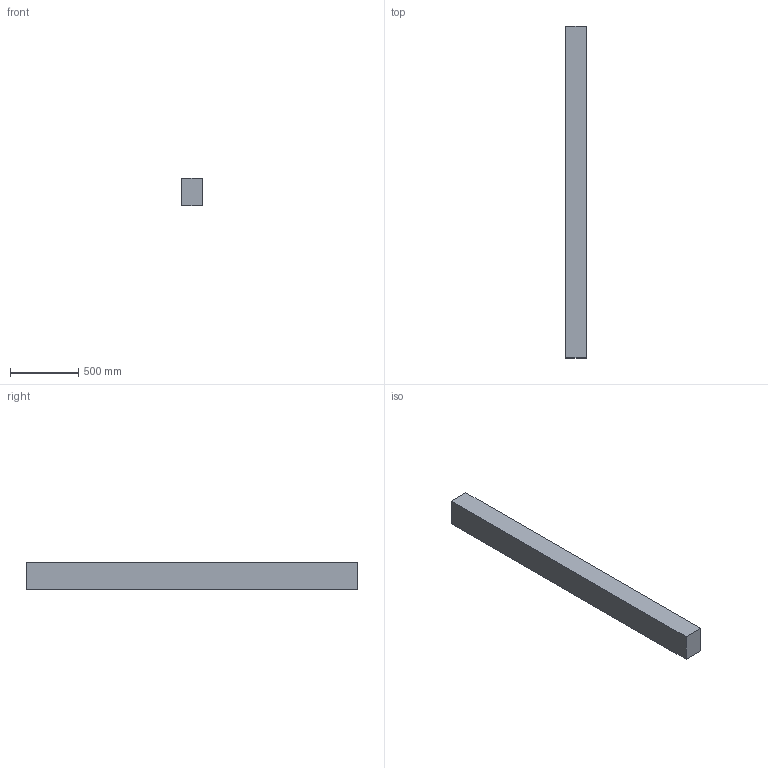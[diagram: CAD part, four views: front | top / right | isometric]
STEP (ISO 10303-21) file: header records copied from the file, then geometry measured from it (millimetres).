
FILE_DESCRIPTION(/* description */ (''),/* implementation_level */ '2;1');
FILE_NAME(/* name */ '6x8x96',/* time_stamp */ '2024-09-20T11:47:24-05:00',/* author */ (''),/* organization */ (''),/* preprocessor_version */ 'ST-DEVELOPER v19.2',/* originating_system */ 'Rhino 8.5',/* authorisation */ '');
FILE_SCHEMA (('CONFIG_CONTROL_DESIGN'));
Length unit declared in the file: inch
Products named in the file (1): Document
Bounding box: 152.4 x 2438.4 x 203.2 mm (x, y, z)
Volume: 75511590.9 mm3; surface area: 1796125.4 mm2
Topology: 1 solids, 1 shells, 6 faces, 12 edges, 8 vertices
Faces by surface type: plane 6
Entity records: 226 total; most frequent: CARTESIAN_POINT 40, ORIENTED_EDGE 24, EDGE_CURVE 12, B_SPLINE_CURVE_WITH_KNOTS 12, DIRECTION 10, VERTEX_POINT 8, AXIS2_PLACEMENT_3D 8, ORGANIZATION 7
